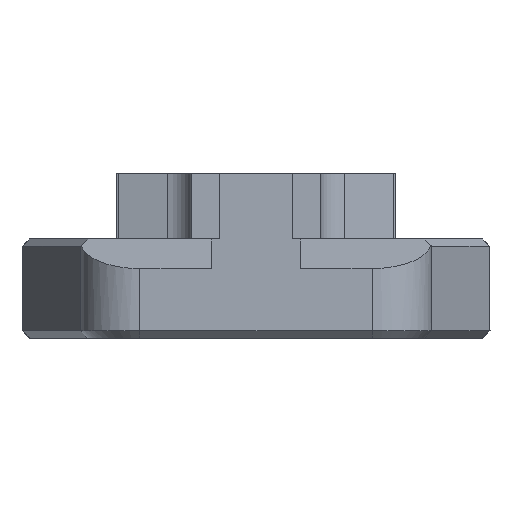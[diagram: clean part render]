
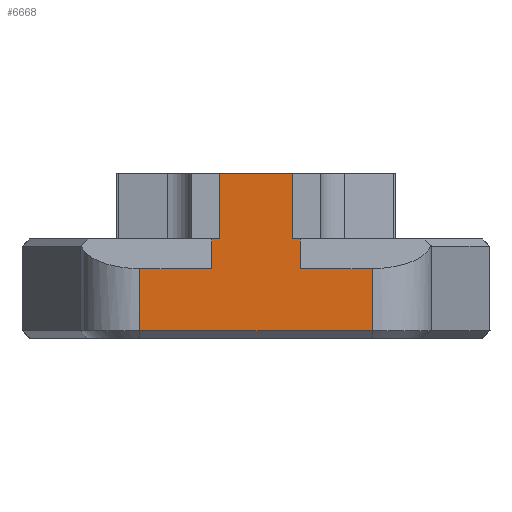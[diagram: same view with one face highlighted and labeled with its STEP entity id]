
A CAD part, front view. The second image highlights one B-rep face of the part: STEP entity #6668.
In plain terms, the highlighted planar face has unit normal (0, -1, 0).
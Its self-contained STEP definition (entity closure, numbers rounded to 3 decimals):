
#37 = CARTESIAN_POINT ( 'NONE',  ( 1.5, -11., 1.675 ) ) ;
#191 = EDGE_CURVE ( 'NONE', #4918, #538, #6965, .T. ) ;
#263 = VERTEX_POINT ( 'NONE', #3670 ) ;
#283 = DIRECTION ( 'NONE',  ( 0., 0., 1. ) ) ;
#320 = LINE ( 'NONE', #7330, #4405 ) ;
#376 = VERTEX_POINT ( 'NONE', #7424 ) ;
#469 = VERTEX_POINT ( 'NONE', #7175 ) ;
#538 = VERTEX_POINT ( 'NONE', #37 ) ;
#577 = CARTESIAN_POINT ( 'NONE',  ( 3.926, -11., -1.425 ) ) ;
#640 = CARTESIAN_POINT ( 'NONE',  ( -1.225, -11., 1.675 ) ) ;
#644 = LINE ( 'NONE', #2383, #3214 ) ;
#802 = VECTOR ( 'NONE', #2717, 1000. ) ;
#1041 = VERTEX_POINT ( 'NONE', #2634 ) ;
#1061 = EDGE_CURVE ( 'NONE', #5074, #2564, #2558, .T. ) ;
#1188 = ORIENTED_EDGE ( 'NONE', *, *, #6598, .T. ) ;
#1228 = VERTEX_POINT ( 'NONE', #640 ) ;
#1234 = ORIENTED_EDGE ( 'NONE', *, *, #1061, .T. ) ;
#1257 = CARTESIAN_POINT ( 'NONE',  ( -6., -11., 1.675 ) ) ;
#1300 = CARTESIAN_POINT ( 'NONE',  ( 3.926, -11., 1.675 ) ) ;
#1338 = EDGE_CURVE ( 'NONE', #263, #1228, #2040, .T. ) ;
#1446 = CARTESIAN_POINT ( 'NONE',  ( -1.5, -11., -0.025 ) ) ;
#1763 = LINE ( 'NONE', #1300, #7298 ) ;
#1877 = CARTESIAN_POINT ( 'NONE',  ( -1.225, -11., 7.168 ) ) ;
#1968 = CARTESIAN_POINT ( 'NONE',  ( 3.926, -11., -1.425 ) ) ;
#2021 = CARTESIAN_POINT ( 'NONE',  ( -3.926, -11., -1.425 ) ) ;
#2023 = VECTOR ( 'NONE', #2496, 1000. ) ;
#2040 = LINE ( 'NONE', #1877, #2269 ) ;
#2269 = VECTOR ( 'NONE', #3129, 1000. ) ;
#2289 = EDGE_CURVE ( 'NONE', #3669, #4918, #320, .T. ) ;
#2381 = ORIENTED_EDGE ( 'NONE', *, *, #2710, .T. ) ;
#2383 = CARTESIAN_POINT ( 'NONE',  ( -6., -11., 0.675 ) ) ;
#2425 = FACE_OUTER_BOUND ( 'NONE', #6311, .T. ) ;
#2496 = DIRECTION ( 'NONE',  ( 1., 0., 0. ) ) ;
#2558 = LINE ( 'NONE', #1968, #3988 ) ;
#2564 = VERTEX_POINT ( 'NONE', #577 ) ;
#2572 = EDGE_CURVE ( 'NONE', #5114, #469, #644, .T. ) ;
#2614 = LINE ( 'NONE', #6224, #3070 ) ;
#2634 = CARTESIAN_POINT ( 'NONE',  ( 3.926, -11., 0.675 ) ) ;
#2710 = EDGE_CURVE ( 'NONE', #469, #5074, #5842, .T. ) ;
#2717 = DIRECTION ( 'NONE',  ( -1., 0., 0. ) ) ;
#2797 = ORIENTED_EDGE ( 'NONE', *, *, #2289, .F. ) ;
#2799 = CARTESIAN_POINT ( 'NONE',  ( 1.5, -11., 1.675 ) ) ;
#2845 = EDGE_CURVE ( 'NONE', #2564, #1041, #1763, .T. ) ;
#2858 = LINE ( 'NONE', #5195, #4768 ) ;
#2967 = PLANE ( 'NONE',  #7493 ) ;
#3070 = VECTOR ( 'NONE', #4950, 1000. ) ;
#3129 = DIRECTION ( 'NONE',  ( 0., 0., -1. ) ) ;
#3214 = VECTOR ( 'NONE', #4766, 1000. ) ;
#3408 = CARTESIAN_POINT ( 'NONE',  ( -3.926, -11., 1.675 ) ) ;
#3484 = CARTESIAN_POINT ( 'NONE',  ( 1.5, -11., 1.675 ) ) ;
#3562 = DIRECTION ( 'NONE',  ( -1., 0., 0. ) ) ;
#3669 = VERTEX_POINT ( 'NONE', #4282 ) ;
#3670 = CARTESIAN_POINT ( 'NONE',  ( -1.225, -11., 3.875 ) ) ;
#3681 = DIRECTION ( 'NONE',  ( 0., 1., 0. ) ) ;
#3816 = EDGE_CURVE ( 'NONE', #1041, #4549, #5744, .T. ) ;
#3988 = VECTOR ( 'NONE', #4930, 1000. ) ;
#4282 = CARTESIAN_POINT ( 'NONE',  ( 1.225, -11., 3.875 ) ) ;
#4288 = EDGE_CURVE ( 'NONE', #263, #3669, #2614, .T. ) ;
#4405 = VECTOR ( 'NONE', #6714, 1000. ) ;
#4448 = ORIENTED_EDGE ( 'NONE', *, *, #2572, .T. ) ;
#4465 = VECTOR ( 'NONE', #6896, 1000. ) ;
#4549 = VERTEX_POINT ( 'NONE', #7027 ) ;
#4766 = DIRECTION ( 'NONE',  ( -1., 0., 0. ) ) ;
#4768 = VECTOR ( 'NONE', #6934, 1000. ) ;
#4880 = ORIENTED_EDGE ( 'NONE', *, *, #5162, .F. ) ;
#4918 = VERTEX_POINT ( 'NONE', #5975 ) ;
#4930 = DIRECTION ( 'NONE',  ( 1., 0., 0. ) ) ;
#4950 = DIRECTION ( 'NONE',  ( 1., 0., 0. ) ) ;
#5074 = VERTEX_POINT ( 'NONE', #2021 ) ;
#5114 = VERTEX_POINT ( 'NONE', #6099 ) ;
#5131 = LINE ( 'NONE', #1446, #6221 ) ;
#5162 = EDGE_CURVE ( 'NONE', #376, #1228, #5750, .T. ) ;
#5171 = DIRECTION ( 'NONE',  ( 1., 0., 0. ) ) ;
#5195 = CARTESIAN_POINT ( 'NONE',  ( 1.5, -11., -0.025 ) ) ;
#5300 = DIRECTION ( 'NONE',  ( 0., 0., 1. ) ) ;
#5440 = ORIENTED_EDGE ( 'NONE', *, *, #3816, .T. ) ;
#5588 = ORIENTED_EDGE ( 'NONE', *, *, #4288, .F. ) ;
#5709 = CARTESIAN_POINT ( 'NONE',  ( -6., -11., 0.675 ) ) ;
#5744 = LINE ( 'NONE', #5709, #802 ) ;
#5750 = LINE ( 'NONE', #2799, #7481 ) ;
#5806 = ORIENTED_EDGE ( 'NONE', *, *, #2845, .T. ) ;
#5842 = LINE ( 'NONE', #3408, #4465 ) ;
#5917 = ORIENTED_EDGE ( 'NONE', *, *, #7166, .F. ) ;
#5975 = CARTESIAN_POINT ( 'NONE',  ( 1.225, -11., 1.675 ) ) ;
#6099 = CARTESIAN_POINT ( 'NONE',  ( -1.5, -11., 0.675 ) ) ;
#6221 = VECTOR ( 'NONE', #283, 1000. ) ;
#6224 = CARTESIAN_POINT ( 'NONE',  ( 1.225, -11., 3.875 ) ) ;
#6311 = EDGE_LOOP ( 'NONE', ( #2381, #1234, #5806, #5440, #1188, #7143, #2797, #5588, #6711, #4880, #5917, #4448 ) ) ;
#6598 = EDGE_CURVE ( 'NONE', #4549, #538, #2858, .T. ) ;
#6668 = ADVANCED_FACE ( 'NONE', ( #2425 ), #2967, .F. ) ;
#6711 = ORIENTED_EDGE ( 'NONE', *, *, #1338, .T. ) ;
#6714 = DIRECTION ( 'NONE',  ( 0., 0., -1. ) ) ;
#6896 = DIRECTION ( 'NONE',  ( 0., 0., -1. ) ) ;
#6934 = DIRECTION ( 'NONE',  ( 0., 0., 1. ) ) ;
#6965 = LINE ( 'NONE', #3484, #2023 ) ;
#7027 = CARTESIAN_POINT ( 'NONE',  ( 1.5, -11., 0.675 ) ) ;
#7143 = ORIENTED_EDGE ( 'NONE', *, *, #191, .F. ) ;
#7166 = EDGE_CURVE ( 'NONE', #5114, #376, #5131, .T. ) ;
#7175 = CARTESIAN_POINT ( 'NONE',  ( -3.926, -11., 0.675 ) ) ;
#7298 = VECTOR ( 'NONE', #5300, 1000. ) ;
#7330 = CARTESIAN_POINT ( 'NONE',  ( 1.225, -11., 7.168 ) ) ;
#7424 = CARTESIAN_POINT ( 'NONE',  ( -1.5, -11., 1.675 ) ) ;
#7481 = VECTOR ( 'NONE', #5171, 1000. ) ;
#7493 = AXIS2_PLACEMENT_3D ( 'NONE', #1257, #3681, #3562 ) ;
